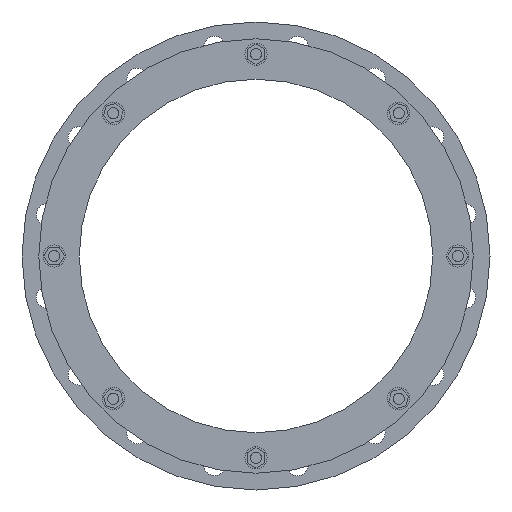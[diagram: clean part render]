
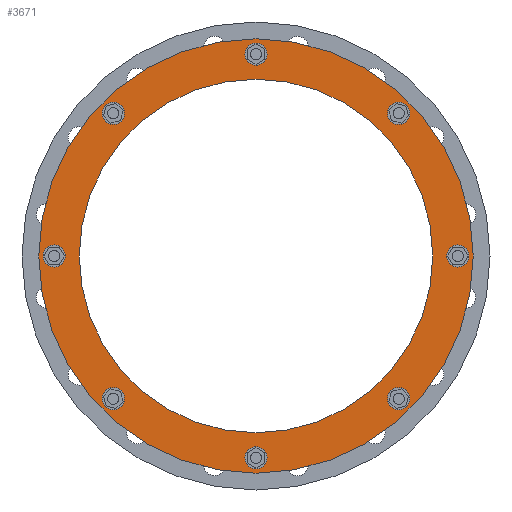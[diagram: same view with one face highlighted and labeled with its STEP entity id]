
A CAD part, front view. The second image highlights one B-rep face of the part: STEP entity #3671.
In plain terms, the highlighted planar face has unit normal (0, -1, 0).
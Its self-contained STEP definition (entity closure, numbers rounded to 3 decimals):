
#910=CARTESIAN_POINT('',(0.,-99.452,0.));
#911=DIRECTION('',(0.,-1.,0.));
#912=DIRECTION('',(1.,0.,0.));
#913=AXIS2_PLACEMENT_3D('',#910,#911,#912);
#915=CARTESIAN_POINT('',(0.,-99.452,0.));
#916=DIRECTION('',(0.,1.,0.));
#917=DIRECTION('',(1.,0.,0.));
#918=AXIS2_PLACEMENT_3D('',#915,#916,#917);
#920=CARTESIAN_POINT('',(217.75,-99.452,0.));
#921=DIRECTION('',(0.,-1.,0.));
#922=DIRECTION('',(0.,0.,-1.));
#923=AXIS2_PLACEMENT_3D('',#920,#921,#922);
#925=CARTESIAN_POINT('',(217.75,-99.452,0.));
#926=DIRECTION('',(0.,-1.,0.));
#927=DIRECTION('',(0.,0.,1.));
#928=AXIS2_PLACEMENT_3D('',#925,#926,#927);
#930=CARTESIAN_POINT('',(153.973,-99.452,153.973));
#931=DIRECTION('',(0.,-1.,0.));
#932=DIRECTION('',(0.707,0.,-0.707));
#933=AXIS2_PLACEMENT_3D('',#930,#931,#932);
#935=CARTESIAN_POINT('',(153.973,-99.452,153.973));
#936=DIRECTION('',(0.,-1.,0.));
#937=DIRECTION('',(-0.707,0.,0.707));
#938=AXIS2_PLACEMENT_3D('',#935,#936,#937);
#940=CARTESIAN_POINT('',(0.,-99.452,217.75));
#941=DIRECTION('',(0.,-1.,0.));
#942=DIRECTION('',(1.,0.,0.));
#943=AXIS2_PLACEMENT_3D('',#940,#941,#942);
#945=CARTESIAN_POINT('',(0.,-99.452,217.75));
#946=DIRECTION('',(0.,-1.,0.));
#947=DIRECTION('',(-1.,0.,0.));
#948=AXIS2_PLACEMENT_3D('',#945,#946,#947);
#950=CARTESIAN_POINT('',(-153.973,-99.452,153.973));
#951=DIRECTION('',(0.,-1.,0.));
#952=DIRECTION('',(0.707,0.,0.707));
#953=AXIS2_PLACEMENT_3D('',#950,#951,#952);
#955=CARTESIAN_POINT('',(-153.973,-99.452,153.973));
#956=DIRECTION('',(0.,-1.,0.));
#957=DIRECTION('',(-0.707,0.,-0.707));
#958=AXIS2_PLACEMENT_3D('',#955,#956,#957);
#960=CARTESIAN_POINT('',(-217.75,-99.452,0.));
#961=DIRECTION('',(0.,-1.,0.));
#962=DIRECTION('',(0.,0.,1.));
#963=AXIS2_PLACEMENT_3D('',#960,#961,#962);
#965=CARTESIAN_POINT('',(-217.75,-99.452,0.));
#966=DIRECTION('',(0.,-1.,0.));
#967=DIRECTION('',(0.,0.,-1.));
#968=AXIS2_PLACEMENT_3D('',#965,#966,#967);
#970=CARTESIAN_POINT('',(-153.973,-99.452,-153.973));
#971=DIRECTION('',(0.,-1.,0.));
#972=DIRECTION('',(-0.707,0.,0.707));
#973=AXIS2_PLACEMENT_3D('',#970,#971,#972);
#975=CARTESIAN_POINT('',(-153.973,-99.452,-153.973));
#976=DIRECTION('',(0.,-1.,0.));
#977=DIRECTION('',(0.707,0.,-0.707));
#978=AXIS2_PLACEMENT_3D('',#975,#976,#977);
#980=CARTESIAN_POINT('',(0.,-99.452,-217.75));
#981=DIRECTION('',(0.,-1.,0.));
#982=DIRECTION('',(-1.,0.,0.));
#983=AXIS2_PLACEMENT_3D('',#980,#981,#982);
#985=CARTESIAN_POINT('',(0.,-99.452,-217.75));
#986=DIRECTION('',(0.,-1.,0.));
#987=DIRECTION('',(1.,0.,0.));
#988=AXIS2_PLACEMENT_3D('',#985,#986,#987);
#990=CARTESIAN_POINT('',(153.973,-99.452,-153.973));
#991=DIRECTION('',(0.,-1.,0.));
#992=DIRECTION('',(-0.707,0.,-0.707));
#993=AXIS2_PLACEMENT_3D('',#990,#991,#992);
#995=CARTESIAN_POINT('',(153.973,-99.452,-153.973));
#996=DIRECTION('',(0.,-1.,0.));
#997=DIRECTION('',(0.707,0.,0.707));
#998=AXIS2_PLACEMENT_3D('',#995,#996,#997);
#1000=CARTESIAN_POINT('',(0.,-99.452,0.));
#1001=DIRECTION('',(0.,1.,0.));
#1002=DIRECTION('',(1.,0.,0.));
#1003=AXIS2_PLACEMENT_3D('',#1000,#1001,#1002);
#1013=CARTESIAN_POINT('',(0.,-99.452,0.));
#1014=DIRECTION('',(0.,-1.,0.));
#1015=DIRECTION('',(1.,0.,0.));
#1016=AXIS2_PLACEMENT_3D('',#1013,#1014,#1015);
#2384=CARTESIAN_POINT('',(234.35,-99.452,0.));
#2386=VERTEX_POINT('',#2384);
#2387=CARTESIAN_POINT('',(190.75,-99.452,0.));
#2389=VERTEX_POINT('',#2387);
#2396=CARTESIAN_POINT('',(-234.35,-99.452,0.));
#2398=VERTEX_POINT('',#2396);
#2399=CARTESIAN_POINT('',(-190.75,-99.452,0.));
#2401=VERTEX_POINT('',#2399);
#2438=CARTESIAN_POINT('',(217.75,-99.452,-12.));
#2439=CARTESIAN_POINT('',(217.75,-99.452,12.));
#2440=VERTEX_POINT('',#2438);
#2441=VERTEX_POINT('',#2439);
#2487=CARTESIAN_POINT('',(162.458,-99.452,145.487));
#2488=VERTEX_POINT('',#2487);
#2489=CARTESIAN_POINT('',(145.487,-99.452,162.458));
#2490=VERTEX_POINT('',#2489);
#2531=CARTESIAN_POINT('',(12.,-99.452,217.75));
#2532=VERTEX_POINT('',#2531);
#2533=CARTESIAN_POINT('',(-12.,-99.452,217.75));
#2534=VERTEX_POINT('',#2533);
#2575=CARTESIAN_POINT('',(-145.487,-99.452,162.458));
#2576=VERTEX_POINT('',#2575);
#2577=CARTESIAN_POINT('',(-162.458,-99.452,145.487));
#2578=VERTEX_POINT('',#2577);
#2619=CARTESIAN_POINT('',(-217.75,-99.452,12.));
#2620=VERTEX_POINT('',#2619);
#2621=CARTESIAN_POINT('',(-217.75,-99.452,-12.));
#2622=VERTEX_POINT('',#2621);
#2663=CARTESIAN_POINT('',(-162.458,-99.452,-145.487));
#2664=VERTEX_POINT('',#2663);
#2665=CARTESIAN_POINT('',(-145.487,-99.452,-162.458));
#2666=VERTEX_POINT('',#2665);
#2707=CARTESIAN_POINT('',(-12.,-99.452,-217.75));
#2708=VERTEX_POINT('',#2707);
#2709=CARTESIAN_POINT('',(12.,-99.452,-217.75));
#2710=VERTEX_POINT('',#2709);
#2751=CARTESIAN_POINT('',(145.487,-99.452,-162.458));
#2752=VERTEX_POINT('',#2751);
#2753=CARTESIAN_POINT('',(162.458,-99.452,-145.487));
#2754=VERTEX_POINT('',#2753);
#3608=CARTESIAN_POINT('',(0.,-99.452,0.));
#3609=DIRECTION('',(0.,1.,0.));
#3610=DIRECTION('',(-1.,0.,0.));
#3611=AXIS2_PLACEMENT_3D('',#3608,#3609,#3610);
#3612=PLANE('',#3611);
#3614=ORIENTED_EDGE('',*,*,#3613,.F.);
#3616=ORIENTED_EDGE('',*,*,#3615,.T.);
#3617=EDGE_LOOP('',(#3614,#3616));
#3618=FACE_OUTER_BOUND('',#3617,.F.);
#3620=ORIENTED_EDGE('',*,*,#3619,.F.);
#3622=ORIENTED_EDGE('',*,*,#3621,.T.);
#3623=EDGE_LOOP('',(#3620,#3622));
#3624=FACE_BOUND('',#3623,.F.);
#3626=ORIENTED_EDGE('',*,*,#3625,.T.);
#3628=ORIENTED_EDGE('',*,*,#3627,.T.);
#3629=EDGE_LOOP('',(#3626,#3628));
#3630=FACE_BOUND('',#3629,.F.);
#3632=ORIENTED_EDGE('',*,*,#3631,.T.);
#3634=ORIENTED_EDGE('',*,*,#3633,.T.);
#3635=EDGE_LOOP('',(#3632,#3634));
#3636=FACE_BOUND('',#3635,.F.);
#3638=ORIENTED_EDGE('',*,*,#3637,.T.);
#3640=ORIENTED_EDGE('',*,*,#3639,.T.);
#3641=EDGE_LOOP('',(#3638,#3640));
#3642=FACE_BOUND('',#3641,.F.);
#3644=ORIENTED_EDGE('',*,*,#3643,.T.);
#3646=ORIENTED_EDGE('',*,*,#3645,.T.);
#3647=EDGE_LOOP('',(#3644,#3646));
#3648=FACE_BOUND('',#3647,.F.);
#3650=ORIENTED_EDGE('',*,*,#3649,.T.);
#3652=ORIENTED_EDGE('',*,*,#3651,.T.);
#3653=EDGE_LOOP('',(#3650,#3652));
#3654=FACE_BOUND('',#3653,.F.);
#3656=ORIENTED_EDGE('',*,*,#3655,.T.);
#3658=ORIENTED_EDGE('',*,*,#3657,.T.);
#3659=EDGE_LOOP('',(#3656,#3658));
#3660=FACE_BOUND('',#3659,.F.);
#3661=ORIENTED_EDGE('',*,*,#3590,.T.);
#3662=ORIENTED_EDGE('',*,*,#3601,.T.);
#3663=EDGE_LOOP('',(#3661,#3662));
#3664=FACE_BOUND('',#3663,.F.);
#3666=ORIENTED_EDGE('',*,*,#3665,.T.);
#3668=ORIENTED_EDGE('',*,*,#3667,.T.);
#3669=EDGE_LOOP('',(#3666,#3668));
#3670=FACE_BOUND('',#3669,.F.);
#3671=ADVANCED_FACE('',(#3618,#3624,#3630,#3636,#3642,#3648,#3654,#3660,#3664,
#3670),#3612,.F.);
#914=CIRCLE('',#913,234.35);
#919=CIRCLE('',#918,234.35);
#924=CIRCLE('',#923,12.);
#929=CIRCLE('',#928,12.);
#934=CIRCLE('',#933,12.);
#939=CIRCLE('',#938,12.);
#944=CIRCLE('',#943,12.);
#949=CIRCLE('',#948,12.);
#954=CIRCLE('',#953,12.);
#959=CIRCLE('',#958,12.);
#964=CIRCLE('',#963,12.);
#969=CIRCLE('',#968,12.);
#974=CIRCLE('',#973,12.);
#979=CIRCLE('',#978,12.);
#984=CIRCLE('',#983,12.);
#989=CIRCLE('',#988,12.);
#994=CIRCLE('',#993,12.);
#999=CIRCLE('',#998,12.);
#1004=CIRCLE('',#1003,190.75);
#1017=CIRCLE('',#1016,190.75);
#3590=EDGE_CURVE('',#2708,#2710,#984,.T.);
#3601=EDGE_CURVE('',#2710,#2708,#989,.T.);
#3613=EDGE_CURVE('',#2386,#2398,#914,.T.);
#3615=EDGE_CURVE('',#2386,#2398,#919,.T.);
#3619=EDGE_CURVE('',#2389,#2401,#1004,.T.);
#3621=EDGE_CURVE('',#2389,#2401,#1017,.T.);
#3625=EDGE_CURVE('',#2440,#2441,#924,.T.);
#3627=EDGE_CURVE('',#2441,#2440,#929,.T.);
#3631=EDGE_CURVE('',#2488,#2490,#934,.T.);
#3633=EDGE_CURVE('',#2490,#2488,#939,.T.);
#3637=EDGE_CURVE('',#2532,#2534,#944,.T.);
#3639=EDGE_CURVE('',#2534,#2532,#949,.T.);
#3643=EDGE_CURVE('',#2576,#2578,#954,.T.);
#3645=EDGE_CURVE('',#2578,#2576,#959,.T.);
#3649=EDGE_CURVE('',#2620,#2622,#964,.T.);
#3651=EDGE_CURVE('',#2622,#2620,#969,.T.);
#3655=EDGE_CURVE('',#2664,#2666,#974,.T.);
#3657=EDGE_CURVE('',#2666,#2664,#979,.T.);
#3665=EDGE_CURVE('',#2752,#2754,#994,.T.);
#3667=EDGE_CURVE('',#2754,#2752,#999,.T.);
